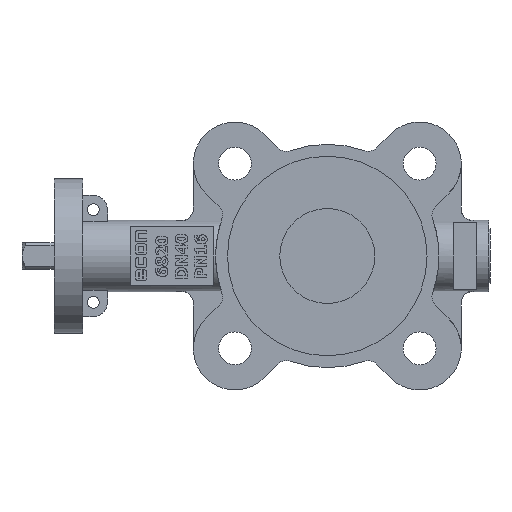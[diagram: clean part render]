
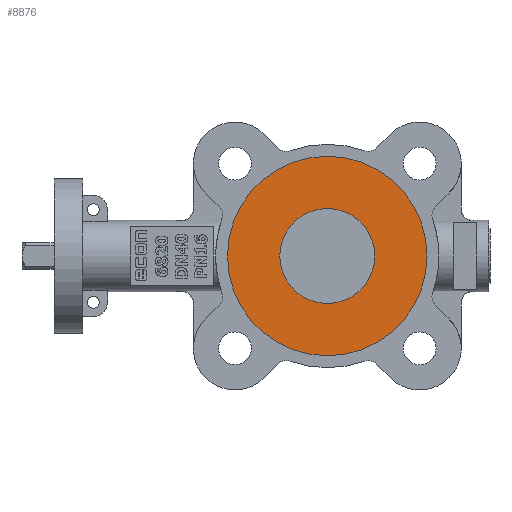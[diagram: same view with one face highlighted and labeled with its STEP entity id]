
A CAD part, left-side view. The second image highlights one B-rep face of the part: STEP entity #8876.
In plain terms, the highlighted planar face has unit normal (-1, 0, 0).
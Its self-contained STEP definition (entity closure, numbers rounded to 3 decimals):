
#205=FACE_BOUND('',#1684,.T.);
#462=PLANE('',#9437);
#1166=FACE_OUTER_BOUND('',#1683,.T.);
#1683=EDGE_LOOP('',(#7879));
#1684=EDGE_LOOP('',(#7880));
#3302=CIRCLE('',#9041,42.);
#3383=CIRCLE('',#9352,20.);
#3538=VERTEX_POINT('',#11871);
#4166=VERTEX_POINT('',#15637);
#4406=EDGE_CURVE('',#3538,#3538,#3302,.T.);
#5342=EDGE_CURVE('',#4166,#4166,#3383,.T.);
#7879=ORIENTED_EDGE('',*,*,#4406,.T.);
#7880=ORIENTED_EDGE('',*,*,#5342,.T.);
#8876=ADVANCED_FACE('',(#1166,#205),#462,.F.);
#9041=AXIS2_PLACEMENT_3D('',#11873,#9806,#9807);
#9352=AXIS2_PLACEMENT_3D('',#15638,#11043,#11044);
#9437=AXIS2_PLACEMENT_3D('',#15849,#11280,#11281);
#9806=DIRECTION('center_axis',(-1.,0.,0.));
#9807=DIRECTION('ref_axis',(0.,-1.,0.));
#11043=DIRECTION('center_axis',(1.,0.,0.));
#11044=DIRECTION('ref_axis',(0.,0.,-1.));
#11280=DIRECTION('center_axis',(1.,0.,0.));
#11281=DIRECTION('ref_axis',(0.,0.,-1.));
#11871=CARTESIAN_POINT('',(-32.558,14.849,0.));
#11873=CARTESIAN_POINT('Origin',(-32.558,-27.151,0.));
#15637=CARTESIAN_POINT('',(-32.558,-27.151,20.));
#15638=CARTESIAN_POINT('Origin',(-32.558,-27.151,0.));
#15849=CARTESIAN_POINT('Origin',(-32.558,-27.151,0.));
